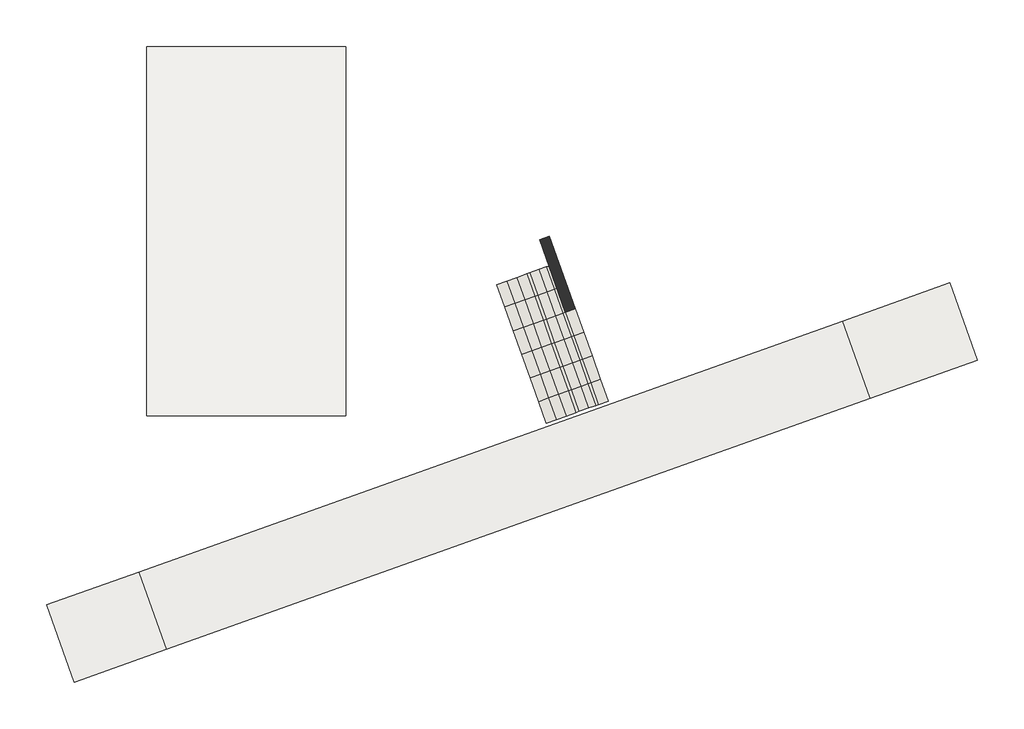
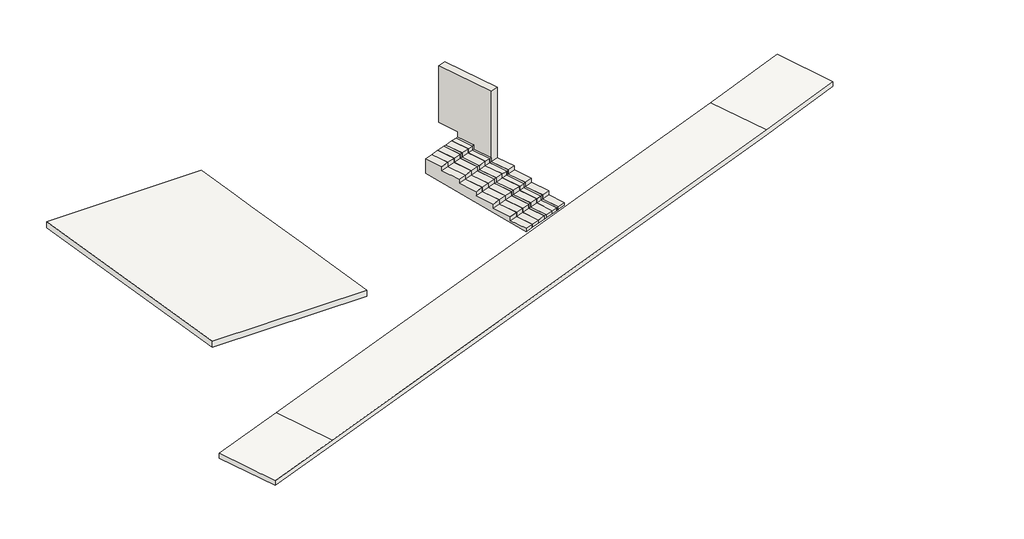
# One storey: 8 walls, 2 slabs.
"""IFC4 building model written with IfcOpenShell, lengths in millimetres."""

from ifc_helpers import new_model, si_unit, frame, origin, place, context, project, spatial, polyline, outline, extrude, faceted_brep, element, save

model = new_model("IFC4")

# Units and contexts
model_context = context("Model", 3, world=origin())
ifc_project = project(units=[si_unit("LENGTHUNIT", "METRE", prefix="MILLI")], contexts=[model_context])

# Site, building, storey
site = spatial("IfcSite", under=ifc_project)
building = spatial("IfcBuilding", under=site)
storey = spatial("IfcBuildingStorey", under=building, Name="BANQUETA", Elevation=-1200.0)

# Slabs
placement = place(None, origin())
element("IfcSlab", 1, ObjectType="Losa sótano en rampa", at=placement, inside=storey, context=model_context, shape_type="Brep", body=[
    faceted_brep([(34183.8589874, 20652.9058422, -1883.4114557), (34183.8589874, 31933.9733508, -3753.4114557), (40254.5059119, 31933.9733508, -3753.4114557), (40254.5059119, 29724.010184, -3387.0781173), (40254.5059119, 28524.010184, -3188.1607721), (40254.5059119, 20652.9058422, -1883.4114557), (34183.8589874, 20652.9058422, -1630.0), (40254.5059119, 20652.9058422, -1630.0), (40254.5059119, 23139.6166463, -2042.2082596), (40254.5059119, 25064.0112971, -2361.2044888), (40254.5059119, 28524.010184, -2934.7493163), (40254.5059119, 29724.010184, -3133.6666615), (40254.5059119, 31933.9733508, -3500.0), (34183.8589874, 31933.9733508, -3500.0)], [[[0, 1, 2, 3, 4, 5]], [[6, 7, 8, 9, 10, 11, 12, 13]], [[1, 0, 6, 13]], [[2, 1, 13, 12]], [[5, 4, 3, 2, 12, 11, 10, 9, 8, 7]], [[0, 5, 7, 6]]]),
])
element("IfcSlab", 2, ObjectType="Acera 19 cm", at=placement, inside=storey, context=model_context, shape_type="SweptSolid", body=[
    extrude(outline(polyline([(150.0, 0.0), (340.0, 0.0), (190.0, -3470.8556704), (-520.0, -26303.9792354), (-610.0, -29286.3250471), (-800.0, -29286.3250471), (-710.0, -26303.9792354), (0.0, -3470.8556704), (150.0, 0.0)])), frame((59550.7994303, 22360.2166271, -1110.0), z_axis=(-0.33567692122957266, 0.9419771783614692, 0.0), x_axis=(0.0, 0.0, 1.0)), (0.0, 0.0, 1.0), 2500.0),
])

# Walls
element("IfcWall", 3, ObjectType="Muro block 18cms_ext tezon", at=placement, inside=storey, context=model_context, shape_type="Brep", body=[
    faceted_brep([(46479.8007206, 26139.8914678, 0.0), (46479.8007206, 26139.8914678, 2350.0), (47269.5366291, 23923.7331451, 2350.0), (47269.5366291, 23923.7331451, -564.2857143), (47523.4202764, 23211.2843987, -564.2857143), (47523.4202764, 23211.2843987, -735.7142857), (47780.6606929, 22489.4158805, -735.7142857), (47780.6606929, 22489.4158805, -907.1428571), (48037.9011094, 21767.5473623, -907.1428571), (48037.9011094, 21767.5473623, -1078.5714286), (48275.0009107, 21102.1974748, -1078.5714286), (48275.0009107, 21102.1974748, -1191.3005656), (46765.1261036, 25339.2108662, -800.0), (46765.1261036, 25339.2108662, 0.0), (46704.7042578, 25508.7667583, 0.0), (46178.3680235, 26032.474853, 2350.0), (46178.3680235, 26032.474853, 0.0), (46403.2715607, 25401.3501435, 0.0), (46463.6934065, 25231.7942514, 0.0), (46463.6934065, 25231.7942514, -800.0), (47973.5682136, 20994.78086, -1191.3005656), (47973.5682136, 20994.78086, -1078.5714286), (47736.4684124, 21660.1307475, -1078.5714286), (47736.4684124, 21660.1307475, -907.1428571), (47479.2279958, 22381.9992657, -907.1428571), (47479.2279958, 22381.9992657, -735.7142857), (47221.9875793, 23103.8677839, -735.7142857), (47221.9875793, 23103.8677839, -564.2857143), (46968.103932, 23816.3165303, -564.2857143), (46968.103932, 23816.3165303, 2350.0)], [[[0, 1, 2, 3, 4, 5, 6, 7, 8, 9, 10, 11, 12, 13, 14]], [[15, 16, 17, 18, 19, 20, 21, 22, 23, 24, 25, 26, 27, 28, 29]], [[1, 0, 16, 15]], [[2, 1, 15, 29]], [[3, 2, 29, 28]], [[4, 3, 28, 27]], [[5, 4, 27, 26]], [[6, 5, 26, 25]], [[7, 6, 25, 24]], [[8, 7, 24, 23]], [[9, 8, 23, 22]], [[10, 9, 22, 21]], [[11, 10, 21, 20]], [[12, 11, 20, 19]], [[16, 0, 14, 13, 18, 17]], [[13, 12, 19, 18]]]),
])
element("IfcWall", 4, ObjectType="Muro block 18cms_ext tezon", at=placement, inside=storey, context=model_context, shape_type="SweptSolid", body=[
    extrude(outline(polyline([(0.0, 0.0), (0.0, 171.4285714), (776.333341, 171.4285714), (776.333341, 342.8571429), (1502.666682, 342.8571429), (1502.666682, -270.9904304), (-2989.0000229, -646.5394239), (-2989.0000229, -514.2857143), (-2289.0000229, -514.2857143), (-2289.0000229, -342.8571428), (-1522.6666819, -342.8571428), (-1522.6666819, -171.4285714), (-756.333341, -171.4285714), (-756.333341, 0.0), (0.0, 0.0)])), frame((45381.3181497, 23250.8597674, -564.2857143), z_axis=(0.9419771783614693, 0.3356769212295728, 0.0), x_axis=(-0.3356769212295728, 0.9419771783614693, 0.0)), (0.0, 0.0, 1.0), 320.0),
])
element("IfcWall", 5, ObjectType="Muro block 18cms_ext tezon", at=placement, inside=storey, context=model_context, shape_type="SweptSolid", body=[
    extrude(outline(polyline([(0.0, 0.0), (0.0, 171.4285714), (776.333341, 171.4285714), (776.333341, 342.8571429), (1502.666682, 342.8571429), (1502.666682, -270.9904304), (-2989.0000229, -646.5394239), (-2989.0000229, -514.2857143), (-2289.000023, -514.2857143), (-2289.000023, -342.8571428), (-1522.6666819, -342.8571428), (-1522.6666819, -171.4285714), (-756.3333409, -171.4285714), (-756.3333409, 0.0), (0.0, 0.0)])), frame((45682.7508468, 23358.2763822, -564.2857143), z_axis=(0.9419771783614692, 0.3356769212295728, 0.0), x_axis=(-0.3356769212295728, 0.9419771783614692, 0.0)), (0.0, 0.0, 1.0), 320.0),
])
element("IfcWall", 6, ObjectType="Muro block 18cms_ext tezon", at=placement, inside=storey, context=model_context, shape_type="SweptSolid", body=[
    extrude(outline(polyline([(0.0, 0.0), (0.0, 171.4285714), (776.333341, 171.4285714), (776.333341, 342.8571429), (1502.666682, 342.8571429), (1502.666682, -270.9904304), (-2989.0000229, -646.5394239), (-2989.0000229, -514.2857143), (-2289.000023, -514.2857143), (-2289.000023, -342.8571428), (-1522.6666819, -342.8571428), (-1522.6666819, -171.4285714), (-756.3333409, -171.4285714), (-756.3333409, 0.0), (0.0, 0.0)])), frame((45984.1835439, 23465.692997, -564.2857143), z_axis=(0.9419771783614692, 0.3356769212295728, 0.0), x_axis=(-0.3356769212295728, 0.9419771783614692, 0.0)), (0.0, 0.0, 1.0), 320.0),
])
element("IfcWall", 7, ObjectType="Muro block 18cms_ext tezon", at=placement, inside=storey, context=model_context, shape_type="SweptSolid", body=[
    extrude(outline(polyline([(0.0, 0.0), (0.0, -171.4285714), (-776.333341, -171.4285714), (-776.333341, -342.8571429), (-1502.666682, -342.8571429), (-1502.666682, 270.9904304), (2989.0000229, 646.5394239), (2989.0000229, 514.2857143), (2289.000023, 514.2857143), (2289.000023, 342.8571428), (1522.6666819, 342.8571428), (1522.6666819, 171.4285714), (756.3333409, 171.4285714), (756.3333409, 0.0), (0.0, 0.0)])), frame((46681.2466559, 23714.0939187, -564.2857143), z_axis=(0.9419771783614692, 0.3356769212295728, 0.0), x_axis=(0.3356769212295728, -0.9419771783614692, 0.0)), (0.0, 0.0, 1.0), 220.0),
])
element("IfcWall", 8, ObjectType="Muro block 18cms_ext tezon", at=placement, inside=storey, context=model_context, shape_type="SweptSolid", body=[
    extrude(outline(polyline([(0.0, 0.0), (0.0, -171.4285714), (-776.333341, -171.4285714), (-776.333341, -342.8571429), (-1502.6666819, -342.8571429), (-1502.6666819, 270.9904304), (2989.0000229, 646.5394239), (2989.0000229, 514.2857143), (2289.000023, 514.2857143), (2289.000023, 342.8571428), (1522.666682, 342.8571428), (1522.666682, 171.4285714), (756.333341, 171.4285714), (756.333341, 0.0), (0.0, 0.0)])), frame((46888.4816351, 23787.9428414, -564.2857143), z_axis=(0.9419771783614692, 0.3356769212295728, 0.0), x_axis=(0.3356769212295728, -0.9419771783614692, 0.0)), (0.0, 0.0, 1.0), 84.5267791),
])
element("IfcWall", 9, ObjectType="Muro block 18cms_ext tezon", at=placement, inside=storey, context=model_context, shape_type="SweptSolid", body=[
    extrude(outline(polyline([(0.0, 0.0), (0.0, -171.4285714), (-776.333341, -171.4285714), (-776.333341, -342.8571429), (-1502.666682, -342.8571429), (-1502.666682, 270.9904304), (2989.0000229, 646.5394239), (2989.0000229, 514.2857143), (2289.000023, 514.2857143), (2289.000023, 342.8571428), (1522.666682, 342.8571428), (1522.666682, 171.4285714), (756.3333409, 171.4285714), (756.3333409, 0.0), (0.0, 0.0)])), frame((46285.616241, 23573.1096118, -564.2857143), z_axis=(0.9419771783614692, 0.3356769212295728, 0.0), x_axis=(0.3356769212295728, -0.9419771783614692, 0.0)), (0.0, 0.0, 1.0), 100.0),
])
element("IfcWall", 10, ObjectType="Muro block 18cms_ext tezon", at=placement, inside=storey, context=model_context, shape_type="SweptSolid", body=[
    extrude(outline(polyline([(0.0, 0.0), (0.0, 171.4285714), (776.333341, 171.4285714), (776.333341, 342.8571429), (1502.666682, 342.8571429), (1502.666682, -270.9904304), (-2989.0000229, -646.5394239), (-2989.0000229, -514.2857143), (-2289.0000229, -514.2857143), (-2289.0000229, -342.8571428), (-1522.6666819, -342.8571428), (-1522.6666819, -171.4285714), (-756.3333409, -171.4285714), (-756.3333409, 0.0), (0.0, 0.0)])), frame((46379.8139588, 23606.6773039, -564.2857143), z_axis=(0.9419771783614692, 0.3356769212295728, 0.0), x_axis=(-0.3356769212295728, 0.9419771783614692, 0.0)), (0.0, 0.0, 1.0), 320.0),
])

save(model, "model.ifc")
